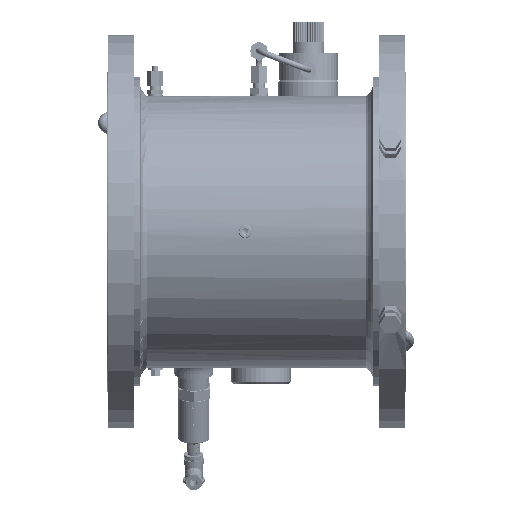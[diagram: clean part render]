
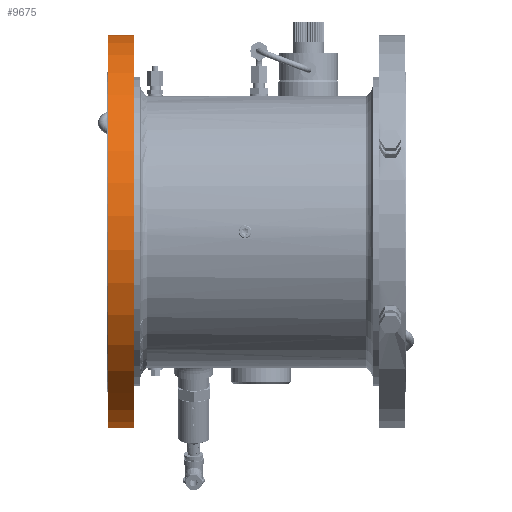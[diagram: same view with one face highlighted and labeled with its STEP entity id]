
A CAD part, front view. The second image highlights one B-rep face of the part: STEP entity #9675.
In plain terms, the highlighted cylindrical face has radius 197.5 mm (diameter 395 mm), a partial arc.
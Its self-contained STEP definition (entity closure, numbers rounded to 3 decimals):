
#8670=CARTESIAN_POINT('',(11.5,0.,0.));
#8671=DIRECTION('',(1.,0.,0.));
#8672=DIRECTION('',(0.,0.798,0.603));
#8673=AXIS2_PLACEMENT_3D('',#8670,#8671,#8672);
#8675=DIRECTION('',(1.,0.,0.));
#8676=VECTOR('',#8675,26.);
#8677=CARTESIAN_POINT('',(-14.5,181.889,76.96));
#8678=LINE('',#8677,#8676);
#8679=CARTESIAN_POINT('',(-14.5,0.,0.));
#8680=DIRECTION('',(-1.,0.,0.));
#8681=DIRECTION('',(0.,0.921,0.39));
#8682=AXIS2_PLACEMENT_3D('',#8679,#8680,#8681);
#8684=DIRECTION('',(-1.,0.,0.));
#8685=VECTOR('',#8684,26.);
#8686=CARTESIAN_POINT('',(11.5,157.593,119.04));
#8687=LINE('',#8686,#8685);
#8830=CARTESIAN_POINT('',(-14.5,157.593,119.04));
#8831=CARTESIAN_POINT('',(-14.5,181.889,76.96));
#8832=VERTEX_POINT('',#8830);
#8833=VERTEX_POINT('',#8831);
#8834=CARTESIAN_POINT('',(11.5,157.593,119.04));
#8835=VERTEX_POINT('',#8834);
#8836=CARTESIAN_POINT('',(11.5,181.889,76.96));
#8837=VERTEX_POINT('',#8836);
#9664=CARTESIAN_POINT('',(27.,0.,0.));
#9665=DIRECTION('',(-1.,0.,0.));
#9666=DIRECTION('',(0.,-1.,0.));
#9667=AXIS2_PLACEMENT_3D('',#9664,#9665,#9666);
#9668=CYLINDRICAL_SURFACE('',#9667,197.5);
#9669=ORIENTED_EDGE('',*,*,#9009,.T.);
#9670=ORIENTED_EDGE('',*,*,#9598,.F.);
#9671=ORIENTED_EDGE('',*,*,#9114,.T.);
#9672=ORIENTED_EDGE('',*,*,#9601,.F.);
#9673=EDGE_LOOP('',(#9669,#9670,#9671,#9672));
#9674=FACE_OUTER_BOUND('',#9673,.F.);
#9675=ADVANCED_FACE('',(#9674),#9668,.T.);
#8674=CIRCLE('',#8673,197.5);
#8683=CIRCLE('',#8682,197.5);
#9009=EDGE_CURVE('',#8835,#8837,#8674,.T.);
#9114=EDGE_CURVE('',#8833,#8832,#8683,.T.);
#9598=EDGE_CURVE('',#8833,#8837,#8678,.T.);
#9601=EDGE_CURVE('',#8835,#8832,#8687,.T.);
